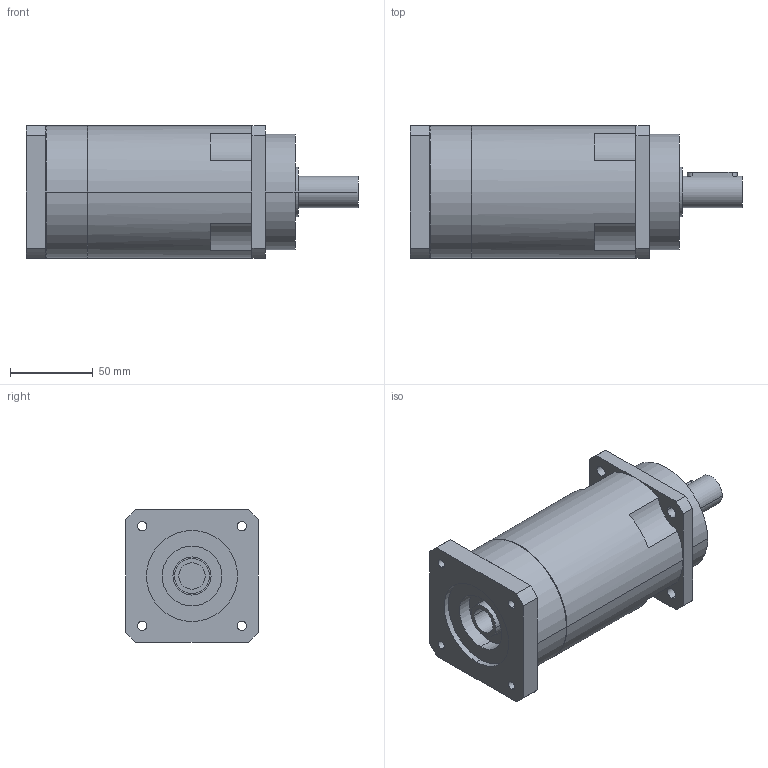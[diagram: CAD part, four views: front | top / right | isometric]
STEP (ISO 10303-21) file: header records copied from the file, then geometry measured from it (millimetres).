
FILE_DESCRIPTION(('CoCreate Modeling STEP Export'),'2;1');
FILE_NAME('GPR100_ig-48-64-80-100-120-144-180-216_19_B5_15.87_P20.stp','2014-08-26T11:55:17',(''),(''),'CoCreate Modeling STEP processor for AP214 (Solid Model)','CoCreate Modeling 16.00C 25-Feb-2009 (C) Parametric Technology GmbH','');
FILE_SCHEMA(('AUTOMOTIVE_DESIGN { 1 0 10303 214 1 1 1 1 }'));
Length unit declared in the file: millimetre
Products named in the file (2): GPR100_ig-48-64-80-100-120-144-180-216_19_B5_15.87_P20
Assembly tree (1 placements, depth 2):
  GPR100_ig-48-64-80-100-120-144-180-216_19_B5_15.87_P20
    GPR100_ig-48-64-80-100-120-144-180-216_19_B5_15.87_P20
Bounding box: 200.4 x 80 x 80 mm (x, y, z)
Volume: 799262.9 mm3; surface area: 65445.3 mm2
Topology: 1 solids, 1 shells, 105 faces, 287 edges, 193 vertices
Faces by surface type: cylinder 60, plane 39, cone 6
Entity records: 3085 total; most frequent: CARTESIAN_POINT 631, ORIENTED_EDGE 570, DIRECTION 436, EDGE_CURVE 285, VERTEX_POINT 193, AXIS2_PLACEMENT_3D 166, EDGE_LOOP 132, FACE_OUTER_BOUND 105
